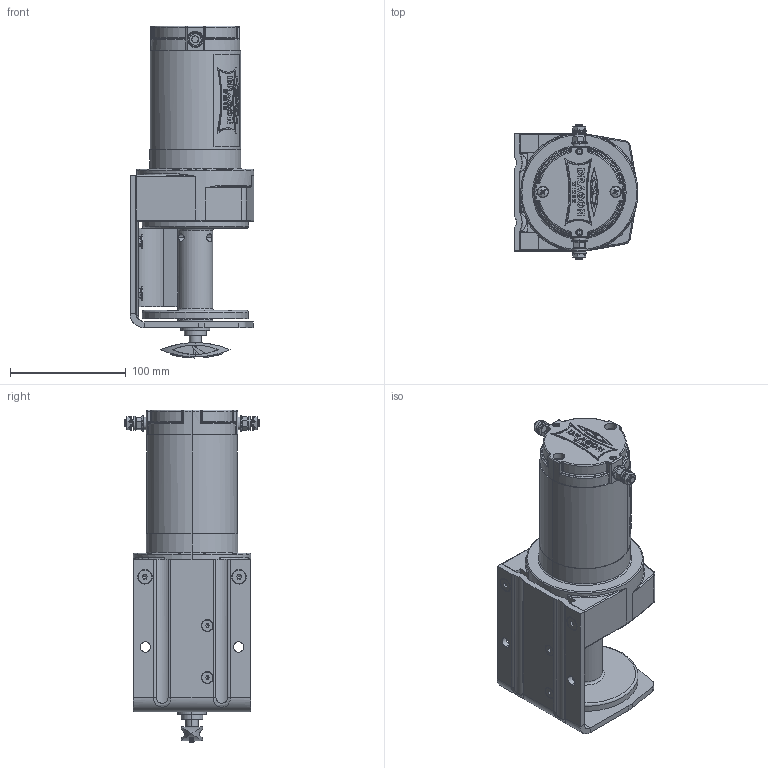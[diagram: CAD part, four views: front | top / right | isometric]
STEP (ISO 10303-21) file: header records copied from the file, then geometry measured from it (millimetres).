
FILE_DESCRIPTION (( 'STEP AP214' ), '1' );
FILE_NAME ('DWM2000ST_DOCISKACZ.STEP', '2026-02-10T12:00:49', ( '' ), ( '' ), 'SwSTEP 2.0', 'SolidWorks 2026', '' );
FILE_SCHEMA (( 'AUTOMOTIVE_DESIGN' ));
Length unit declared in the file: millimetre
Products named in the file (20): 022026_ZOB_DWM2000ST_gwint dodatkowyI_0001; DWM2000ST_DOCISKACZ; torque nut 05_iso_ISO 7044-M6-N; pan head cross recess screw_iso_ISO 7045 - M5 x 110 - Z - 25N; socket countersunk head screw_din_DIN 7991 - M6 x 16 --- 9.7N; 022026_ZOB_DWM2000ST_KLAPKA_PRZEKLADNI_0001; 022026_ZOB_DWM2000ST_107__L150_RAMA_0001; hex flange nut_din_Hexagon Flange Nut DIN 6923 - M5 - N; plain washer normal grade a_iso_Washer ISO 7089 - 6; 022026_ZOB_DWM2000ST_FI74_L55_MAGNES_0001; 022026_ZOB_DWM2000ST_PRZEKLADNIA_0001; 022026_ZOB_DWM2000ST_107__L150_PRZYCIS_LINY_0001; 022026_ZOB_DWM2000ST_FI78__L81_STOJAN_0001; hex thin nut chamfered gradeab_iso_ISO - 4035 - M6 - N; 022026_ZOB_DWM2000ST_FI78_ZAWLECZKA_0001; socket countersunk head screw_din_DIN 7991 - M5 x 10 --- 10N; pan head cross recess screw_iso_ISO 7045 - M4 x 12 - Z - 12N; 022026_ZOB_DWM2000ST_tuleja_0001; 022026_ZOB_DWM2000ST_FI78_DEKIEL_0001; 022026_ZOB_DWM2000ST_beben_0001
Assembly tree (34 placements, depth 2):
  DWM2000ST_DOCISKACZ
    022026_ZOB_DWM2000ST_FI74_L55_MAGNES_0001  x4
    022026_ZOB_DWM2000ST_FI78_DEKIEL_0001
    pan head cross recess screw_iso_ISO 7045 - M5 x 110 - Z - 25N  x2
    torque nut 05_iso_ISO 7044-M6-N  x2
    plain washer normal grade a_iso_Washer ISO 7089 - 6  x4
    hex thin nut chamfered gradeab_iso_ISO - 4035 - M6 - N  x2
    022026_ZOB_DWM2000ST_KLAPKA_PRZEKLADNI_0001
    022026_ZOB_DWM2000ST_PRZEKLADNIA_0001
    022026_ZOB_DWM2000ST_107__L150_RAMA_0001
    pan head cross recess screw_iso_ISO 7045 - M4 x 12 - Z - 12N  x4
    022026_ZOB_DWM2000ST_beben_0001
    022026_ZOB_DWM2000ST_tuleja_0001
    socket countersunk head screw_din_DIN 7991 - M6 x 16 --- 9.7N  x2
    022026_ZOB_DWM2000ST_gwint dodatkowyI_0001
    022026_ZOB_DWM2000ST_FI78_ZAWLECZKA_0001
    022026_ZOB_DWM2000ST_107__L150_PRZYCIS_LINY_0001
    socket countersunk head screw_din_DIN 7991 - M5 x 10 --- 10N  x2
    hex flange nut_din_Hexagon Flange Nut DIN 6923 - M5 - N  x2
    022026_ZOB_DWM2000ST_FI78__L81_STOJAN_0001
Bounding box: 107.25 x 117.5 x 287.17 mm (x, y, z)
Volume: 863527.1 mm3; surface area: 277995.9 mm2
Topology: 34 solids, 34 shells, 2045 faces, 5024 edges, 3101 vertices
Faces by surface type: plane 886, cylinder 620, torus 186, cone 182, bspline 148, sphere 23
Entity records: 70218 total; most frequent: CARTESIAN_POINT 28669, ORIENTED_EDGE 8272, DIRECTION 7466, EDGE_CURVE 4136, AXIS2_PLACEMENT_3D 2768, VERTEX_POINT 2609, VECTOR 1930, LINE 1930
